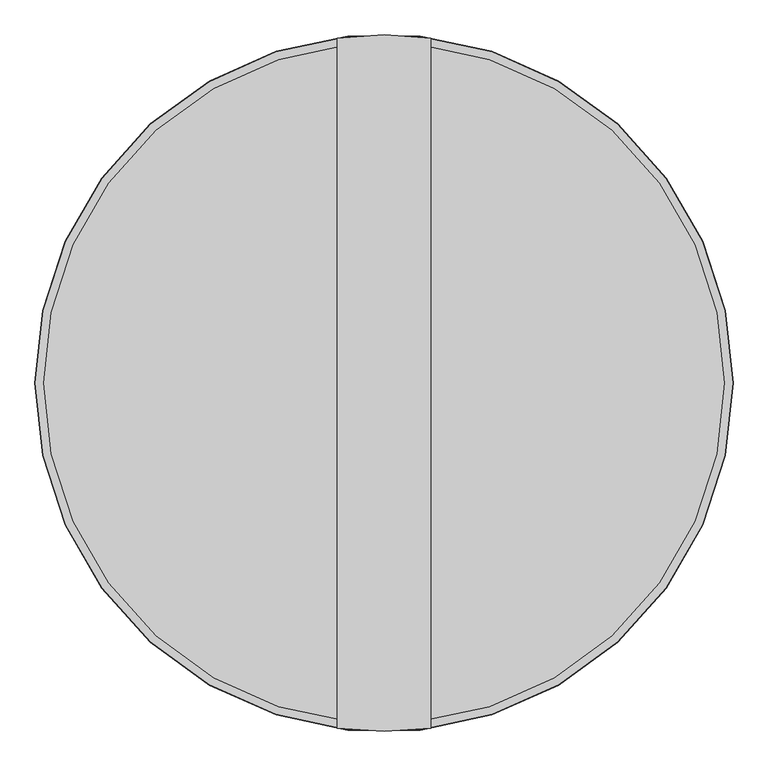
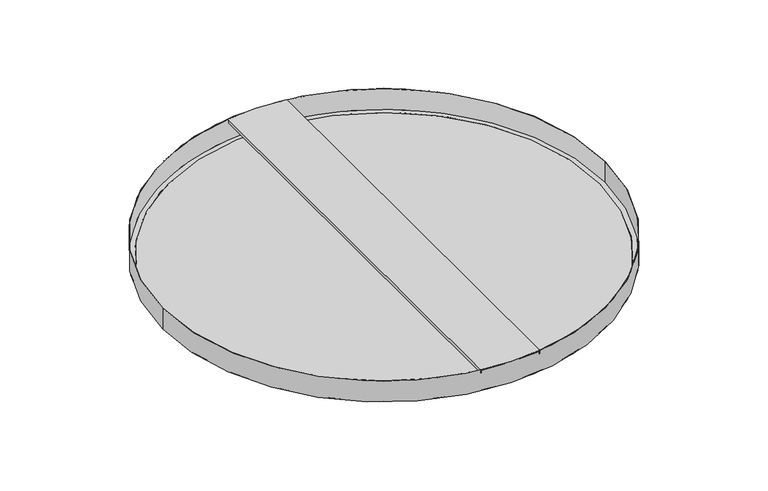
"""IFC4 building model written with IfcOpenShell, lengths in millimetres: proxy geometry, durlum_TOMEO-R : durlum_TOMEO-R 1200 WS."""

from ifc_helpers import new_model, si_unit, point, frame, origin, origin_with_axes, origin_2d, place, context, project, spatial, circle_curve, trimmed, segment, composite_curve, outline, extrude, source, transform, mapped, element, save
from ifc_brep_helpers import plane_surface, cylinder_surface, advanced_brep


def generic_models_0fa353ae(model_context):
    return source(origin(), model_context, "Body", "SolidModel", [
        advanced_brep(
        [(-80.0, 593.6337255, 60.0), (-80.0, -593.6337255, 60.0), (0.0, -599.0, 60.0), (80.0, -593.6337255, 60.0), (80.0, 593.6337255, 60.0), (0.0, 599.0, 60.0), (80.0, -593.6337255, 51.2547795), (80.0, 593.6337255, 51.2547795), (78.5, -593.8339414, 51.2547795), (78.5, 593.8339414, 51.2547795), (78.5, -593.8339414, 58.5), (78.5, 593.8339414, 58.5), (0.0, -599.0, 58.5), (-78.5, -593.8339414, 58.5), (-78.5, 593.8339414, 58.5), (0.0, 599.0, 58.5), (-78.5, -593.8339414, 51.2547795), (-78.5, 593.8339414, 51.2547795), (-80.0, -593.6337255, 51.2547795), (-80.0, 593.6337255, 51.2547795)],
        [
            (0, 1),
            (1, 2, circle_curve(frame((0.0, 0.0, 60.0), z_axis=(0.0, 0.0, 1.0), x_axis=(0.0, -1.0, 0.0)), 599.0)),
            (2, 3, circle_curve(frame((0.0, 0.0, 60.0), z_axis=(0.0, 0.0, 1.0), x_axis=(0.0, -1.0, 0.0)), 599.0)),
            (3, 4),
            (4, 5, circle_curve(frame((0.0, 0.0, 60.0), z_axis=(0.0, 0.0, 1.0), x_axis=(0.0, -1.0, 0.0)), 599.0)),
            (5, 0, circle_curve(frame((0.0, 0.0, 60.0), z_axis=(0.0, 0.0, 1.0), x_axis=(0.0, -1.0, 0.0)), 599.0)),
            (3, 6),
            (6, 7),
            (7, 4),
            (6, 8, circle_curve(frame((0.0, 0.0, 51.2547795), z_axis=(0.0, 0.0, -1.0), x_axis=(0.0, -1.0, 0.0)), 599.0)),
            (8, 9),
            (9, 7, circle_curve(frame((0.0, 0.0, 51.2547795), z_axis=(0.0, 0.0, -1.0), x_axis=(0.0, -1.0, 0.0)), 599.0)),
            (8, 10),
            (10, 11),
            (11, 9),
            (10, 12, circle_curve(frame((0.0, 0.0, 58.5), z_axis=(0.0, 0.0, -1.0), x_axis=(0.0, -1.0, 0.0)), 599.0)),
            (12, 13, circle_curve(frame((0.0, 0.0, 58.5), z_axis=(0.0, 0.0, -1.0), x_axis=(0.0, -1.0, 0.0)), 599.0)),
            (13, 14),
            (14, 15, circle_curve(frame((0.0, 0.0, 58.5), z_axis=(0.0, 0.0, -1.0), x_axis=(0.0, -1.0, 0.0)), 599.0)),
            (15, 11, circle_curve(frame((0.0, 0.0, 58.5), z_axis=(0.0, 0.0, -1.0), x_axis=(0.0, -1.0, 0.0)), 599.0)),
            (13, 16),
            (16, 17),
            (17, 14),
            (16, 18, circle_curve(frame((0.0, 0.0, 51.2547795), z_axis=(0.0, 0.0, -1.0), x_axis=(0.0, -1.0, 0.0)), 599.0)),
            (18, 19),
            (19, 17, circle_curve(frame((0.0, 0.0, 51.2547795), z_axis=(0.0, 0.0, -1.0), x_axis=(0.0, -1.0, 0.0)), 599.0)),
            (0, 19),
            (18, 1),
            (5, 15),
            (12, 2),
        ],
        [
            plane_surface(frame((-80.0, 599.0, 60.0), z_axis=(0.0, 0.0, 1.0), x_axis=(0.0, -1.0, 0.0))),
            plane_surface(frame((80.0, 599.0, 60.0), z_axis=(1.0, 0.0, 0.0), x_axis=(0.0, -1.0, 0.0))),
            plane_surface(frame((80.0, 599.0, 51.2547795), z_axis=(0.0, 0.0, -1.0), x_axis=(0.0, -1.0, 0.0))),
            plane_surface(frame((78.5, 599.0, 51.2547795), z_axis=(-1.0, 0.0, 0.0), x_axis=(0.0, -1.0, 0.0))),
            plane_surface(frame((78.5, 599.0, 58.5), z_axis=(0.0, 0.0, -1.0), x_axis=(0.0, -1.0, 0.0))),
            plane_surface(frame((-78.5, 599.0, 58.5), z_axis=(1.0, 0.0, 0.0), x_axis=(0.0, -1.0, 0.0))),
            plane_surface(frame((-78.5, 599.0, 51.2547795), z_axis=(0.0, 0.0, -1.0), x_axis=(0.0, -1.0, 0.0))),
            plane_surface(frame((-80.0, 599.0, 51.2547795), z_axis=(-1.0, 0.0, 0.0), x_axis=(0.0, -1.0, 0.0))),
            cylinder_surface(frame((0.0, 0.0, 243.6547052), z_axis=(0.0, 0.0, -1.0), x_axis=(0.0, -1.0, 0.0)), 599.0),
        ],
        [
            (0, [[1, 2, 3, 4, 5, 6]]),
            (1, [[-4, 7, 8, 9]]),
            (2, [[-8, 10, 11, 12]]),
            (3, [[-11, 13, 14, 15]]),
            (4, [[-14, 16, 17, 18, 19, 20]]),
            (5, [[-18, 21, 22, 23]]),
            (6, [[-22, 24, 25, 26]]),
            (7, [[-1, 27, -25, 28]]),
            (8, [[29, -19, -23, -26, -27, -6]]),
            (8, [[30, -2, -28, -24, -21, -17]]),
            (8, [[-29, -5, -9, -12, -15, -20]]),
            (8, [[-30, -16, -13, -10, -7, -3]]),
        ],
    ),
        extrude(outline(composite_curve([segment(trimmed(circle_curve(origin_2d(), 585.0), [point((-585.0, 0.0))], [point((585.0, 0.0))], False, "CARTESIAN"), True, "CONTINUOUS"), segment(trimmed(circle_curve(origin_2d(), 585.0), [point((585.0, 0.0))], [point((-585.0, 0.0))], False, "CARTESIAN"), True, "CONTINUOUS")], self_intersect=False)), origin_with_axes(), (0.0, 0.0, 1.0), 1.0),
        extrude(outline(composite_curve([segment(trimmed(circle_curve(origin_2d(), 599.0), [point((-599.0, 0.0))], [point((599.0, 0.0))], False, "CARTESIAN"), True, "CONTINUOUS"), segment(trimmed(circle_curve(origin_2d(), 599.0), [point((599.0, 0.0))], [point((-599.0, 0.0))], False, "CARTESIAN"), True, "CONTINUOUS")], self_intersect=False), holes=[composite_curve([segment(trimmed(circle_curve(origin_2d(), 585.0), [point((-585.0, 0.0))], [point((585.0, 0.0))], True, "CARTESIAN"), True, "CONTINUOUS"), segment(trimmed(circle_curve(origin_2d(), 585.0), [point((585.0, 0.0))], [point((-585.0, 0.0))], True, "CARTESIAN"), True, "CONTINUOUS")], self_intersect=False)]), origin_with_axes(), (0.0, 0.0, 1.0), 1.0),
        extrude(outline(composite_curve([segment(trimmed(circle_curve(origin_2d(), 600.0), [point((-600.0, 0.0))], [point((600.0, 0.0))], False, "CARTESIAN"), True, "CONTINUOUS"), segment(trimmed(circle_curve(origin_2d(), 600.0), [point((600.0, 0.0))], [point((-600.0, 0.0))], False, "CARTESIAN"), True, "CONTINUOUS")], self_intersect=False), holes=[composite_curve([segment(trimmed(circle_curve(origin_2d(), 599.0), [point((-599.0, 0.0))], [point((599.0, 0.0))], True, "CARTESIAN"), True, "CONTINUOUS"), segment(trimmed(circle_curve(origin_2d(), 599.0), [point((599.0, 0.0))], [point((-599.0, 0.0))], True, "CARTESIAN"), True, "CONTINUOUS")], self_intersect=False)]), origin_with_axes(), (0.0, 0.0, 1.0), 60.0),
    ])


if __name__ == "__main__":
    model = new_model("IFC4")
    model_context = context("Model", 3, world=origin())
    ifc_project = project(units=[si_unit("LENGTHUNIT", "METRE", prefix="MILLI")], contexts=[model_context])
    site = spatial("IfcSite", under=ifc_project)
    building = spatial("IfcBuilding", under=site)
    placement = place(None, origin())
    generic_models_shape = generic_models_0fa353ae(model_context)
    element("IfcBuildingElementProxy", 1, Name="durlum_TOMEO-R : durlum_TOMEO-R 1200 WS", ObjectType="durlum_TOMEO-R : durlum_TOMEO-R 1200 WS", at=placement, inside=building, context=model_context, shape_type="MappedRepresentation", body=[
        mapped(generic_models_shape, transform((0.0, 0.0, 0.0), x_axis=(1.0, 0.0, 0.0), y_axis=(0.0, 1.0, 0.0), z_axis=(0.0, 0.0, 1.0))),
    ])
    save(model, "model.ifc")
